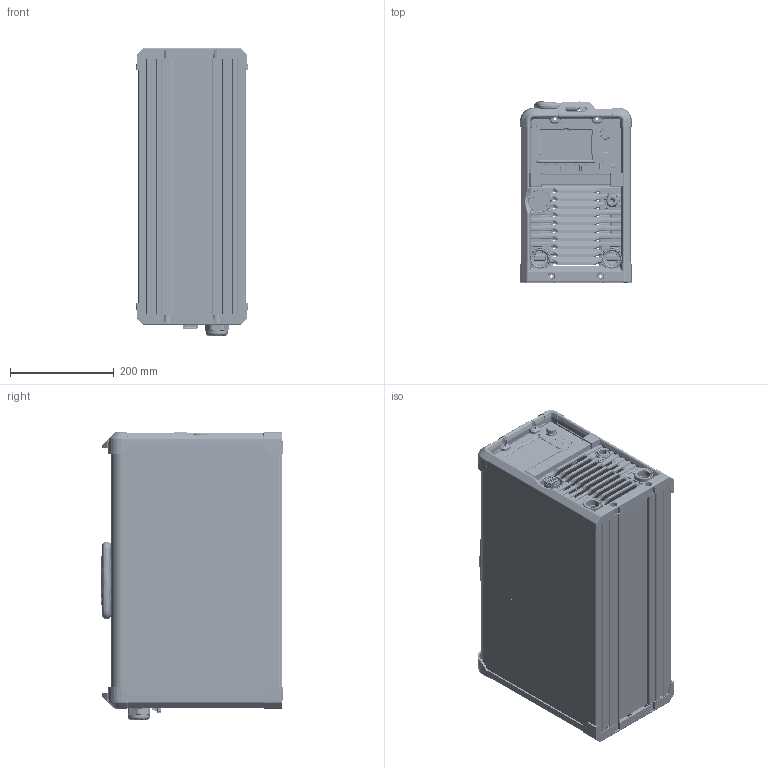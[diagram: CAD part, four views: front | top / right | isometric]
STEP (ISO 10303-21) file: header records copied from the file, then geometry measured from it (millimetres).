
FILE_DESCRIPTION (( 'STEP AP214' ), '1' );
FILE_NAME ('907816_defeature.STEP', '2022-11-03T20:38:29', ( 'Windows User' ), ( 'IT' ), 'SwSTEP 2.0', 'SolidWorks 2020', '' );
FILE_SCHEMA (( 'AUTOMOTIVE_DESIGN' ));
Length unit declared in the file: inch
Products named in the file (1): 907816_defeature
Bounding box: 215.69 x 350.39 x 555.03 mm (x, y, z)
Surface area: 1838315.5 mm2 (no closed solid volume)
Topology: 0 solids, 79 shells, 15459 faces, 38709 edges, 23012 vertices
Faces by surface type: bspline 4855, cylinder 4773, plane 4732, sphere 455, torus 323, cone 321
Full cylindrical faces by diameter (mm): 1.778 x2, 2 x1, 2.362 x1, 2.381 x2, 3.048 x4, 3.175 x5, 3.556 x1, 3.6 x1, 3.683 x2, 3.81 x28, 3.962 x1, 4 x1, 4.343 x1, 4.763 x4, 4.826 x6, 5.156 x2, 5.474 x1, 5.537 x11, 5.563 x8, 5.994 x2, 6.172 x2, 6.35 x3, 7.137 x4, 7.925 x7, 7.938 x4, 8.738 x4, 9.449 x2, 10.795 x2, 11.113 x1, 14.275 x2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
Entity records: 799755 total; most frequent: CARTESIAN_POINT 286685, ORIENTED_EDGE 75609, DIRECTION 55467, EDGE_CURVE 37814, VERTEX_POINT 22855, AXIS2_PLACEMENT_3D 19155, LINE 17157, VECTOR 17157
